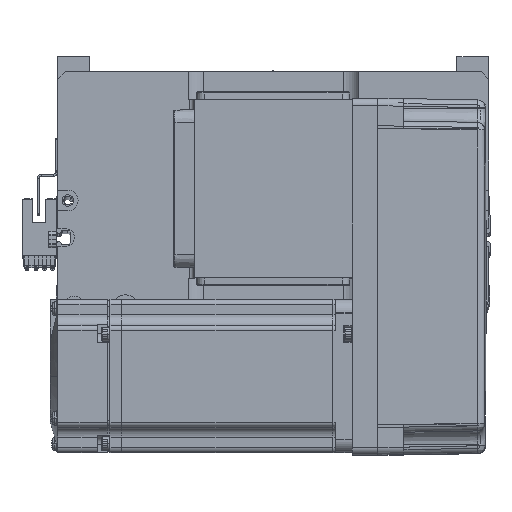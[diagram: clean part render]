
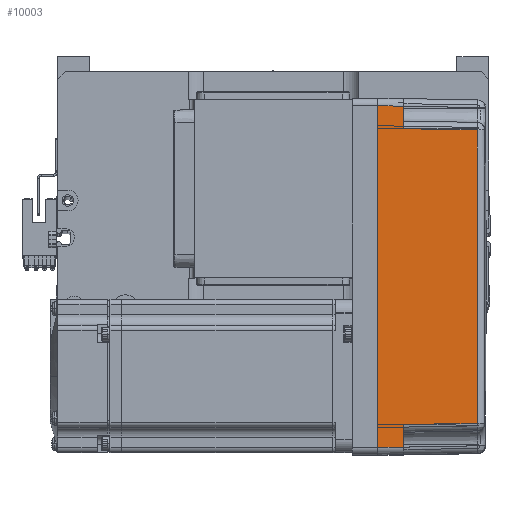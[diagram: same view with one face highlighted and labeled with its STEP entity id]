
A CAD part, top view. The second image highlights one B-rep face of the part: STEP entity #10003.
In plain terms, the highlighted planar face has unit normal (0.018, 0, 1) as drawn and (0, 1, 0.017) by its records, which use the part's own axes.
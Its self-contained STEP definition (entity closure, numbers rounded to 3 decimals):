
#2070 = EDGE_CURVE ( 'NONE', #62179, #39149, #19213, .T. ) ;
#2405 = ORIENTED_EDGE ( 'NONE', *, *, #24378, .T. ) ;
#2543 = LINE ( 'NONE', #34118, #48490 ) ;
#4171 = ORIENTED_EDGE ( 'NONE', *, *, #4269, .T. ) ;
#4214 = CARTESIAN_POINT ( 'NONE',  ( 70., 36., 0. ) ) ;
#4269 = EDGE_CURVE ( 'NONE', #40172, #19255, #7659, .T. ) ;
#5017 = CARTESIAN_POINT ( 'NONE',  ( -67., 36., 0. ) ) ;
#5280 = DIRECTION ( 'NONE',  ( 0.017, -0.017, 1. ) ) ;
#5310 = CARTESIAN_POINT ( 'NONE',  ( -66.826, 35.825, 10. ) ) ;
#5583 = CARTESIAN_POINT ( 'NONE',  ( 66.826, 35.825, 10. ) ) ;
#5604 = VERTEX_POINT ( 'NONE', #58204 ) ;
#5924 = DIRECTION ( 'NONE',  ( 1., 0., 0. ) ) ;
#7425 = CARTESIAN_POINT ( 'NONE',  ( 57.495, 35.32, 38.985 ) ) ;
#7659 = LINE ( 'NONE', #60842, #17444 ) ;
#8641 = PLANE ( 'NONE',  #20748 ) ;
#9644 = DIRECTION ( 'NONE',  ( 0.017, -0.017, 1. ) ) ;
#10003 = ADVANCED_FACE ( 'NONE', ( #37298 ), #8641, .T. ) ;
#10989 = CARTESIAN_POINT ( 'NONE',  ( 0., 36., 0. ) ) ;
#11475 = CARTESIAN_POINT ( 'NONE',  ( 67.001, 36.001, -0.052 ) ) ;
#13789 = EDGE_CURVE ( 'NONE', #5604, #40172, #54795, .T. ) ;
#14887 = ORIENTED_EDGE ( 'NONE', *, *, #2070, .T. ) ;
#15684 = CARTESIAN_POINT ( 'NONE',  ( 19.165, 35.316, 39.181 ) ) ;
#16743 = DIRECTION ( 'NONE',  ( -0.017, -0.017, 1. ) ) ;
#17119 = VECTOR ( 'NONE', #5924, 1000. ) ;
#17444 = VECTOR ( 'NONE', #18196, 1000. ) ;
#18196 = DIRECTION ( 'NONE',  ( 0.017, 0.017, -1. ) ) ;
#18751 = DIRECTION ( 'NONE',  ( 0., -0.017, 1. ) ) ;
#18999 = VECTOR ( 'NONE', #9644, 1000. ) ;
#19213 = LINE ( 'NONE', #54974, #32767 ) ;
#19255 = VERTEX_POINT ( 'NONE', #25921 ) ;
#19775 = LINE ( 'NONE', #25616, #52083 ) ;
#20295 = CARTESIAN_POINT ( 'NONE',  ( -57.495, 35.32, 38.985 ) ) ;
#20362 = VERTEX_POINT ( 'NONE', #49543 ) ;
#20748 = AXIS2_PLACEMENT_3D ( 'NONE', #4214, #47772, #18751 ) ;
#24378 = EDGE_CURVE ( 'NONE', #20362, #62179, #26525, .T. ) ;
#25119 = CARTESIAN_POINT ( 'NONE',  ( -19.165, 35.316, 39.181 ) ) ;
#25616 = CARTESIAN_POINT ( 'NONE',  ( 70., 35.825, 10. ) ) ;
#25921 = CARTESIAN_POINT ( 'NONE',  ( 58., 35.825, 10. ) ) ;
#26525 = LINE ( 'NONE', #5017, #18999 ) ;
#29211 = LINE ( 'NONE', #10989, #17119 ) ;
#31002 = ORIENTED_EDGE ( 'NONE', *, *, #33774, .T. ) ;
#32693 = EDGE_CURVE ( 'NONE', #39149, #5604, #2543, .T. ) ;
#32767 = VECTOR ( 'NONE', #35901, 1000. ) ;
#33105 = ORIENTED_EDGE ( 'NONE', *, *, #13789, .T. ) ;
#33774 = EDGE_CURVE ( 'NONE', #19255, #54948, #19775, .T. ) ;
#34118 = CARTESIAN_POINT ( 'NONE',  ( -58., 35.825, 10. ) ) ;
#35901 = DIRECTION ( 'NONE',  ( 1., 0., 0. ) ) ;
#37298 = FACE_OUTER_BOUND ( 'NONE', #49050, .T. ) ;
#39149 = VERTEX_POINT ( 'NONE', #46114 ) ;
#40172 = VERTEX_POINT ( 'NONE', #46237 ) ;
#46114 = CARTESIAN_POINT ( 'NONE',  ( -58., 35.825, 10. ) ) ;
#46237 = CARTESIAN_POINT ( 'NONE',  ( 57.495, 35.32, 38.985 ) ) ;
#46570 = EDGE_CURVE ( 'NONE', #20362, #58653, #29211, .T. ) ;
#47772 = DIRECTION ( 'NONE',  ( 0., 1., 0.017 ) ) ;
#48490 = VECTOR ( 'NONE', #5280, 1000. ) ;
#49050 = EDGE_LOOP ( 'NONE', ( #2405, #14887, #55928, #33105, #4171, #31002, #53702, #53156 ) ) ;
#49543 = CARTESIAN_POINT ( 'NONE',  ( -67., 36., 0. ) ) ;
#49807 = DIRECTION ( 'NONE',  ( 1., 0., 0. ) ) ;
#50413 = CARTESIAN_POINT ( 'NONE',  ( 67., 36., 0. ) ) ;
#51178 = VECTOR ( 'NONE', #16743, 1000. ) ;
#52083 = VECTOR ( 'NONE', #49807, 1000. ) ;
#53156 = ORIENTED_EDGE ( 'NONE', *, *, #46570, .F. ) ;
#53365 = LINE ( 'NONE', #11475, #51178 ) ;
#53702 = ORIENTED_EDGE ( 'NONE', *, *, #61795, .F. ) ;
#54795 = B_SPLINE_CURVE_WITH_KNOTS ( 'NONE', 3,
 ( #20295, #25119, #15684, #7425 ),
 .UNSPECIFIED., .F., .F.,
 ( 4, 4 ),
 ( 0., 1. ),
 .UNSPECIFIED. ) ;
#54948 = VERTEX_POINT ( 'NONE', #5583 ) ;
#54974 = CARTESIAN_POINT ( 'NONE',  ( 70., 35.825, 10. ) ) ;
#55928 = ORIENTED_EDGE ( 'NONE', *, *, #32693, .T. ) ;
#58204 = CARTESIAN_POINT ( 'NONE',  ( -57.495, 35.32, 38.985 ) ) ;
#58653 = VERTEX_POINT ( 'NONE', #50413 ) ;
#60842 = CARTESIAN_POINT ( 'NONE',  ( 57.495, 35.32, 38.985 ) ) ;
#61795 = EDGE_CURVE ( 'NONE', #58653, #54948, #53365, .T. ) ;
#62179 = VERTEX_POINT ( 'NONE', #5310 ) ;
